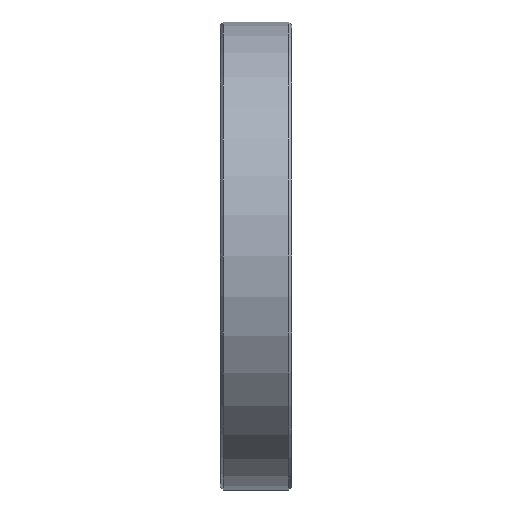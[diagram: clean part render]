
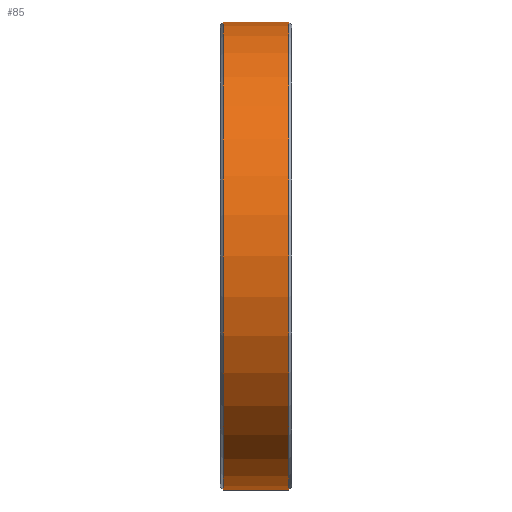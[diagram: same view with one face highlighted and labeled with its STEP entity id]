
A CAD part, left-side view. The second image highlights one B-rep face of the part: STEP entity #85.
In plain terms, the highlighted cylindrical face has radius 41 mm (diameter 82 mm), a partial arc.
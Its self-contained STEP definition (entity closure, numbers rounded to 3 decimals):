
#54 = CIRCLE ( 'NONE', #490, 41. ) ;
#85 = ADVANCED_FACE ( 'NONE', ( #1046 ), #184, .T. ) ;
#124 = DIRECTION ( 'NONE',  ( 0., -1., 0. ) ) ;
#184 = CYLINDRICAL_SURFACE ( 'NONE', #1478, 41. ) ;
#188 = DIRECTION ( 'NONE',  ( 0., 0., 1. ) ) ;
#324 = ORIENTED_EDGE ( 'NONE', *, *, #1039, .T. ) ;
#337 = LINE ( 'NONE', #1101, #537 ) ;
#353 = CARTESIAN_POINT ( 'NONE',  ( 0., 12., 0. ) ) ;
#360 = VERTEX_POINT ( 'NONE', #1798 ) ;
#419 = EDGE_CURVE ( 'NONE', #689, #706, #634, .T. ) ;
#439 = VECTOR ( 'NONE', #124, 1000. ) ;
#490 = AXIS2_PLACEMENT_3D ( 'NONE', #1228, #1383, #188 ) ;
#499 = CARTESIAN_POINT ( 'NONE',  ( 0., 12.5, 0. ) ) ;
#521 = DIRECTION ( 'NONE',  ( 0., -1., 0. ) ) ;
#537 = VECTOR ( 'NONE', #663, 1000. ) ;
#605 = ORIENTED_EDGE ( 'NONE', *, *, #419, .T. ) ;
#634 = LINE ( 'NONE', #1334, #439 ) ;
#663 = DIRECTION ( 'NONE',  ( 0., -1., 0. ) ) ;
#689 = VERTEX_POINT ( 'NONE', #833 ) ;
#706 = VERTEX_POINT ( 'NONE', #1919 ) ;
#833 = CARTESIAN_POINT ( 'NONE',  ( 0., 12., -41. ) ) ;
#850 = AXIS2_PLACEMENT_3D ( 'NONE', #353, #1261, #1410 ) ;
#1031 = VERTEX_POINT ( 'NONE', #1392 ) ;
#1039 = EDGE_CURVE ( 'NONE', #360, #689, #1640, .T. ) ;
#1046 = FACE_OUTER_BOUND ( 'NONE', #1845, .T. ) ;
#1101 = CARTESIAN_POINT ( 'NONE',  ( 0., 12.5, 41. ) ) ;
#1228 = CARTESIAN_POINT ( 'NONE',  ( 0., 0.5, 0. ) ) ;
#1261 = DIRECTION ( 'NONE',  ( 0., -1., 0. ) ) ;
#1334 = CARTESIAN_POINT ( 'NONE',  ( 0., 12.5, -41. ) ) ;
#1353 = EDGE_CURVE ( 'NONE', #360, #1031, #337, .T. ) ;
#1383 = DIRECTION ( 'NONE',  ( 0., 1., 0. ) ) ;
#1391 = DIRECTION ( 'NONE',  ( 0., 0., -1. ) ) ;
#1392 = CARTESIAN_POINT ( 'NONE',  ( 0., 0.5, 41. ) ) ;
#1410 = DIRECTION ( 'NONE',  ( 0., 0., 1. ) ) ;
#1469 = ORIENTED_EDGE ( 'NONE', *, *, #1731, .T. ) ;
#1478 = AXIS2_PLACEMENT_3D ( 'NONE', #499, #521, #1391 ) ;
#1640 = CIRCLE ( 'NONE', #850, 41. ) ;
#1731 = EDGE_CURVE ( 'NONE', #706, #1031, #54, .T. ) ;
#1798 = CARTESIAN_POINT ( 'NONE',  ( 0., 12., 41. ) ) ;
#1845 = EDGE_LOOP ( 'NONE', ( #1853, #324, #605, #1469 ) ) ;
#1853 = ORIENTED_EDGE ( 'NONE', *, *, #1353, .F. ) ;
#1919 = CARTESIAN_POINT ( 'NONE',  ( 0., 0.5, -41. ) ) ;
